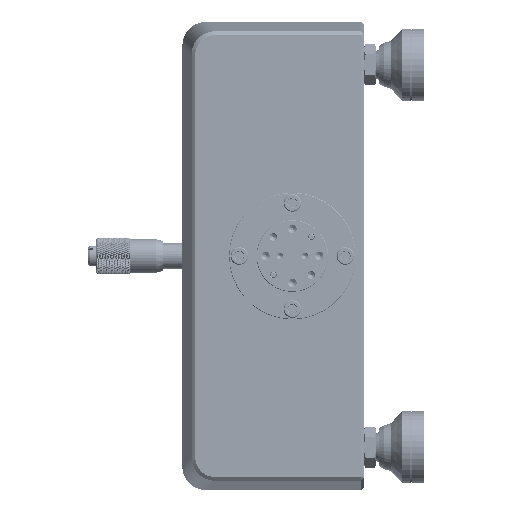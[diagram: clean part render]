
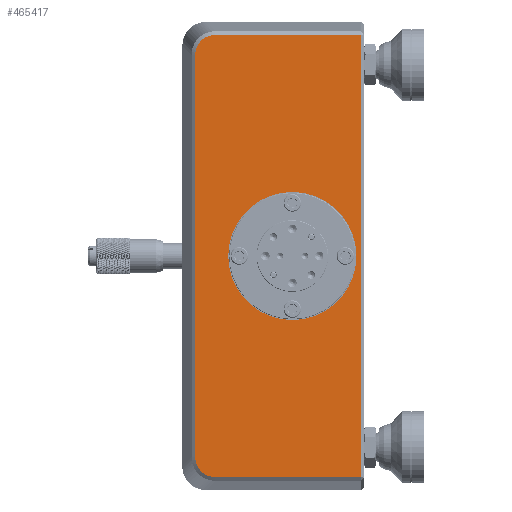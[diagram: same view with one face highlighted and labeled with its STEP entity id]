
A CAD part, left-side view. The second image highlights one B-rep face of the part: STEP entity #465417.
In plain terms, the highlighted planar face has unit normal (-1, 0, 0).
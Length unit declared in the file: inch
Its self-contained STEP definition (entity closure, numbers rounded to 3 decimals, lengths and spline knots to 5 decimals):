
#8798 = CARTESIAN_POINT ( 'NONE',  ( -3.68787, 0.56253, 4.14181 ) ) ;
#15733 = AXIS2_PLACEMENT_3D ( 'NONE', #39782, #396282, #91196 ) ;
#23657 = VECTOR ( 'NONE', #628025, 39.37008 ) ;
#33520 = CARTESIAN_POINT ( 'NONE',  ( -3.68787, 1.3349, -0.40169 ) ) ;
#38737 = ORIENTED_EDGE ( 'NONE', *, *, #172450, .T. ) ;
#39782 = CARTESIAN_POINT ( 'NONE',  ( -3.68787, 0.56253, 1.82949 ) ) ;
#48965 = LINE ( 'NONE', #258036, #23657 ) ;
#54858 = DIRECTION ( 'NONE',  ( 0., 0., 1. ) ) ;
#57748 = CARTESIAN_POINT ( 'NONE',  ( -3.68787, 1.30702, 4.09045 ) ) ;
#61111 = CARTESIAN_POINT ( 'NONE',  ( -3.68787, 1.35657, 4.02573 ) ) ;
#84965 = CARTESIAN_POINT ( 'NONE',  ( -3.68787, 1.37761, -0.28765 ) ) ;
#91042 = CARTESIAN_POINT ( 'NONE',  ( -3.68787, 1.16869, 4.14181 ) ) ;
#91196 = DIRECTION ( 'NONE',  ( 0., 1., 0. ) ) ;
#95875 = EDGE_CURVE ( 'NONE', #345734, #429238, #400467, .T. ) ;
#105206 = CARTESIAN_POINT ( 'NONE',  ( -3.68787, 1.22321, -0.47615 ) ) ;
#105867 = CARTESIAN_POINT ( 'NONE',  ( -3.68787, 1.37092, 3.98742 ) ) ;
#109242 = CARTESIAN_POINT ( 'NONE',  ( -3.68787, 1.1961, 4.14047 ) ) ;
#115961 = CARTESIAN_POINT ( 'NONE',  ( -3.68787, 1.37761, 3.93289 ) ) ;
#139209 = EDGE_CURVE ( 'NONE', #429238, #560144, #474941, .T. ) ;
#139745 = CARTESIAN_POINT ( 'NONE',  ( -3.68787, 1.30703, -0.43148 ) ) ;
#153965 = DIRECTION ( 'NONE',  ( -1., 0., 0. ) ) ;
#160674 = CARTESIAN_POINT ( 'NONE',  ( -3.68787, 1.36698, 4.0005 ) ) ;
#164018 = CARTESIAN_POINT ( 'NONE',  ( -3.68787, 1.32625, 4.07123 ) ) ;
#170742 = CARTESIAN_POINT ( 'NONE',  ( -3.68787, 1.3349, 4.06066 ) ) ;
#172450 = EDGE_CURVE ( 'NONE', #412921, #645446, #359592, .T. ) ;
#187297 = PLANE ( 'NONE',  #15733 ) ;
#187768 = CARTESIAN_POINT ( 'NONE',  ( -3.68787, 1.35658, -0.36674 ) ) ;
#197863 = CARTESIAN_POINT ( 'NONE',  ( -3.68787, 1.26152, -0.4618 ) ) ;
#200166 = VECTOR ( 'NONE', #362961, 39.37008 ) ;
#209590 = ORIENTED_EDGE ( 'NONE', *, *, #139209, .T. ) ;
#212046 = CARTESIAN_POINT ( 'NONE',  ( -3.68787, 1.22318, 4.13512 ) ) ;
#232429 = VERTEX_POINT ( 'NONE', #322442 ) ;
#235363 = FACE_OUTER_BOUND ( 'NONE', #298893, .T. ) ;
#258036 = CARTESIAN_POINT ( 'NONE',  ( -3.68787, 0.56253, -0.48284 ) ) ;
#259372 = CARTESIAN_POINT ( 'NONE',  ( -3.68787, 1.16869, -0.48284 ) ) ;
#260052 = CARTESIAN_POINT ( 'NONE',  ( -3.68787, 1.35015, 4.03778 ) ) ;
#266821 = CARTESIAN_POINT ( 'NONE',  ( -3.68787, 1.37761, 3.94666 ) ) ;
#270183 = CARTESIAN_POINT ( 'NONE',  ( -3.68787, 1.16869, 4.14181 ) ) ;
#270201 = CARTESIAN_POINT ( 'NONE',  ( -3.68787, 1.37761, -0.27392 ) ) ;
#278815 = EDGE_CURVE ( 'NONE', #645446, #383837, #310185, .T. ) ;
#293977 = CARTESIAN_POINT ( 'NONE',  ( -3.68787, 1.35015, -0.37881 ) ) ;
#298893 = EDGE_LOOP ( 'NONE', ( #560206, #360898, #533679, #209590, #491279, #38737 ) ) ;
#300698 = CARTESIAN_POINT ( 'NONE',  ( -3.68787, 1.37761, -0.27392 ) ) ;
#301712 = CIRCLE ( 'NONE', #509609, 0.67 ) ;
#310185 = B_SPLINE_CURVE_WITH_KNOTS ( 'NONE', 3,
 ( #300698, #84965, #509751, #609151, #657229, #187768, #293977, #33520, #503061, #139745, #458278, #667288, #197863, #406811, #105206, #310810, #413559, #259372 ),
 .UNSPECIFIED., .F., .F.,
 ( 4, 2, 2, 2, 2, 2, 2, 2, 4 ),
 ( 0., 0.125, 0.25, 0.375, 0.5, 0.625, 0.75, 0.875, 1. ),
 .UNSPECIFIED. ) ;
#310810 = CARTESIAN_POINT ( 'NONE',  ( -3.68787, 1.19612, -0.4815 ) ) ;
#322442 = CARTESIAN_POINT ( 'NONE',  ( -3.68787, 0.36253, 2.49949 ) ) ;
#324973 = CARTESIAN_POINT ( 'NONE',  ( -3.68787, 1.29646, 4.0991 ) ) ;
#345734 = VERTEX_POINT ( 'NONE', #582597 ) ;
#346984 = CARTESIAN_POINT ( 'NONE',  ( -3.68787, -0.35747, 4.14181 ) ) ;
#358778 = B_SPLINE_CURVE_WITH_KNOTS ( 'NONE', 3,
 ( #270183, #520541, #109242, #212046, #376350, #534018, #630066, #324973, #57748, #164018, #170742, #260052, #61111, #160674, #105867, #372989, #266821, #115961 ),
 .UNSPECIFIED., .F., .F.,
 ( 4, 2, 2, 2, 2, 2, 2, 2, 4 ),
 ( 0., 0.125, 0.25, 0.375, 0.5, 0.625, 0.75, 0.875, 1. ),
 .UNSPECIFIED. ) ;
#359177 = DIRECTION ( 'NONE',  ( 0., 0., 1. ) ) ;
#359592 = LINE ( 'NONE', #575429, #200166 ) ;
#360898 = ORIENTED_EDGE ( 'NONE', *, *, #552373, .T. ) ;
#362961 = DIRECTION ( 'NONE',  ( 0., 0., -1. ) ) ;
#363506 = EDGE_CURVE ( 'NONE', #560144, #412921, #358778, .T. ) ;
#366617 = AXIS2_PLACEMENT_3D ( 'NONE', #366757, #575805, #54858 ) ;
#366757 = CARTESIAN_POINT ( 'NONE',  ( -3.68787, 0.36253, 1.82949 ) ) ;
#371280 = EDGE_LOOP ( 'NONE', ( #521370, #497040 ) ) ;
#372989 = CARTESIAN_POINT ( 'NONE',  ( -3.68787, 1.37627, 3.96032 ) ) ;
#373108 = EDGE_CURVE ( 'NONE', #232429, #667588, #662076, .T. ) ;
#376350 = CARTESIAN_POINT ( 'NONE',  ( -3.68787, 1.23631, 4.13117 ) ) ;
#383837 = VERTEX_POINT ( 'NONE', #487068 ) ;
#396282 = DIRECTION ( 'NONE',  ( 1., 0., 0. ) ) ;
#400467 = LINE ( 'NONE', #458632, #527698 ) ;
#406811 = CARTESIAN_POINT ( 'NONE',  ( -3.68787, 1.2363, -0.47221 ) ) ;
#412921 = VERTEX_POINT ( 'NONE', #472549 ) ;
#413559 = CARTESIAN_POINT ( 'NONE',  ( -3.68787, 1.18246, -0.48284 ) ) ;
#429238 = VERTEX_POINT ( 'NONE', #346984 ) ;
#458278 = CARTESIAN_POINT ( 'NONE',  ( -3.68787, 1.29646, -0.44013 ) ) ;
#458632 = CARTESIAN_POINT ( 'NONE',  ( -3.68787, -0.35747, 1.82949 ) ) ;
#465417 = ADVANCED_FACE ( 'NONE', ( #557345, #235363 ), #187297, .F. ) ;
#472549 = CARTESIAN_POINT ( 'NONE',  ( -3.68787, 1.37761, 3.93289 ) ) ;
#474941 = LINE ( 'NONE', #8798, #519695 ) ;
#487068 = CARTESIAN_POINT ( 'NONE',  ( -3.68787, 1.16869, -0.48284 ) ) ;
#491279 = ORIENTED_EDGE ( 'NONE', *, *, #363506, .T. ) ;
#497040 = ORIENTED_EDGE ( 'NONE', *, *, #619722, .F. ) ;
#501849 = CARTESIAN_POINT ( 'NONE',  ( -3.68787, 0.36253, 1.15949 ) ) ;
#503061 = CARTESIAN_POINT ( 'NONE',  ( -3.68787, 1.32625, -0.41225 ) ) ;
#509609 = AXIS2_PLACEMENT_3D ( 'NONE', #616613, #153965, #572028 ) ;
#509751 = CARTESIAN_POINT ( 'NONE',  ( -3.68787, 1.37626, -0.30133 ) ) ;
#519695 = VECTOR ( 'NONE', #574407, 39.37008 ) ;
#520541 = CARTESIAN_POINT ( 'NONE',  ( -3.68787, 1.18242, 4.14181 ) ) ;
#521370 = ORIENTED_EDGE ( 'NONE', *, *, #373108, .F. ) ;
#527698 = VECTOR ( 'NONE', #359177, 39.37008 ) ;
#533679 = ORIENTED_EDGE ( 'NONE', *, *, #95875, .T. ) ;
#534018 = CARTESIAN_POINT ( 'NONE',  ( -3.68787, 1.26151, 4.12079 ) ) ;
#552373 = EDGE_CURVE ( 'NONE', #383837, #345734, #48965, .T. ) ;
#557345 = FACE_BOUND ( 'NONE', #371280, .T. ) ;
#560144 = VERTEX_POINT ( 'NONE', #91042 ) ;
#560206 = ORIENTED_EDGE ( 'NONE', *, *, #278815, .T. ) ;
#572028 = DIRECTION ( 'NONE',  ( 0., 0., 1. ) ) ;
#574407 = DIRECTION ( 'NONE',  ( 0., 1., 0. ) ) ;
#575429 = CARTESIAN_POINT ( 'NONE',  ( -3.68787, 1.37761, 1.82949 ) ) ;
#575805 = DIRECTION ( 'NONE',  ( -1., 0., 0. ) ) ;
#582597 = CARTESIAN_POINT ( 'NONE',  ( -3.68787, -0.35747, -0.48284 ) ) ;
#609151 = CARTESIAN_POINT ( 'NONE',  ( -3.68787, 1.37092, -0.32841 ) ) ;
#616613 = CARTESIAN_POINT ( 'NONE',  ( -3.68787, 0.36253, 1.82949 ) ) ;
#619722 = EDGE_CURVE ( 'NONE', #667588, #232429, #301712, .T. ) ;
#628025 = DIRECTION ( 'NONE',  ( 0., -1., 0. ) ) ;
#630066 = CARTESIAN_POINT ( 'NONE',  ( -3.68787, 1.27358, 4.11435 ) ) ;
#645446 = VERTEX_POINT ( 'NONE', #270201 ) ;
#657229 = CARTESIAN_POINT ( 'NONE',  ( -3.68787, 1.36697, -0.34154 ) ) ;
#662076 = CIRCLE ( 'NONE', #366617, 0.67 ) ;
#667288 = CARTESIAN_POINT ( 'NONE',  ( -3.68787, 1.27358, -0.45538 ) ) ;
#667588 = VERTEX_POINT ( 'NONE', #501849 ) ;
